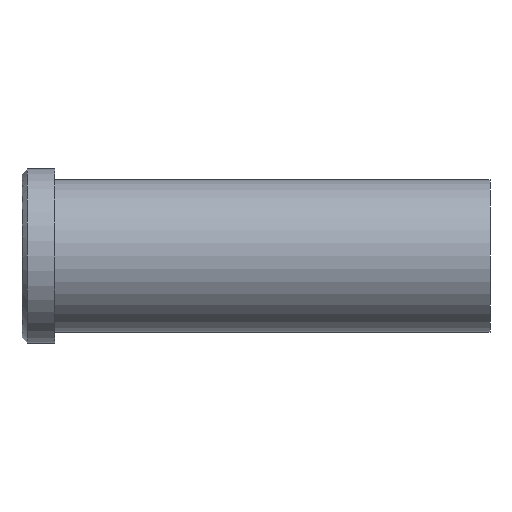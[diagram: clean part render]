
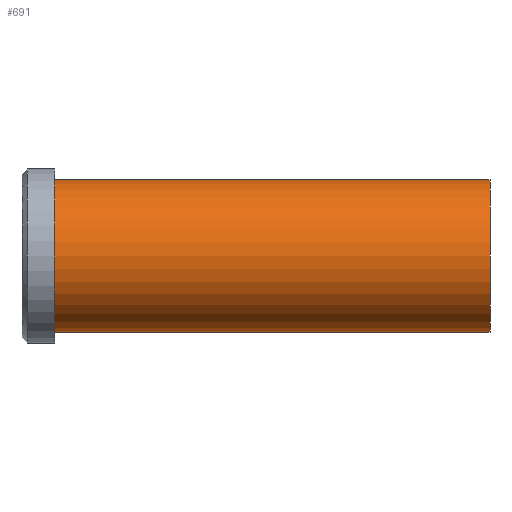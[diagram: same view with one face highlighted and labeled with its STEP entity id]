
A CAD part, front view. The second image highlights one B-rep face of the part: STEP entity #691.
In plain terms, the highlighted cylindrical face has radius 14 mm (diameter 28 mm), a partial arc.
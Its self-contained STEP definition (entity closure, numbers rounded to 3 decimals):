
#501=CARTESIAN_POINT('Vertex',(0.,0.,-14.)) ;
#506=CARTESIAN_POINT('Axis2P3D Location',(0.,0.,0.)) ;
#510=CARTESIAN_POINT('Vertex',(0.,-14.,0.)) ;
#513=CARTESIAN_POINT('Axis2P3D Location',(0.,0.,0.)) ;
#517=CARTESIAN_POINT('Vertex',(0.,0.,14.)) ;
#631=CARTESIAN_POINT('Line Origine',(80.,0.,14.)) ;
#635=CARTESIAN_POINT('Vertex',(80.,0.,14.)) ;
#649=CARTESIAN_POINT('Vertex',(80.,0.,-14.)) ;
#652=CARTESIAN_POINT('Line Origine',(80.,0.,-14.)) ;
#666=CARTESIAN_POINT('Axis2P3D Location',(80.,0.,0.)) ;
#671=CARTESIAN_POINT('Axis2P3D Location',(80.,0.,0.)) ;
#675=CARTESIAN_POINT('Vertex',(80.,-14.,0.)) ;
#678=CARTESIAN_POINT('Axis2P3D Location',(80.,0.,0.)) ;
#507=DIRECTION('Axis2P3D Direction',(1.,0.,-0.)) ;
#514=DIRECTION('Axis2P3D Direction',(1.,0.,-0.)) ;
#632=DIRECTION('Vector Direction',(-1.,0.,0.)) ;
#653=DIRECTION('Vector Direction',(-1.,0.,0.)) ;
#667=DIRECTION('Axis2P3D Direction',(-1.,-0.,-0.)) ;
#668=DIRECTION('Axis2P3D XDirection',(0.,0.,-1.)) ;
#672=DIRECTION('Axis2P3D Direction',(-1.,-0.,-0.)) ;
#679=DIRECTION('Axis2P3D Direction',(-1.,-0.,-0.)) ;
#508=AXIS2_PLACEMENT_3D('Circle Axis2P3D',#506,#507,$) ;
#515=AXIS2_PLACEMENT_3D('Circle Axis2P3D',#513,#514,$) ;
#669=AXIS2_PLACEMENT_3D('Cylinder Axis2P3D',#666,#667,#668) ;
#673=AXIS2_PLACEMENT_3D('Circle Axis2P3D',#671,#672,$) ;
#680=AXIS2_PLACEMENT_3D('Circle Axis2P3D',#678,#679,$) ;
#684=ORIENTED_EDGE('',*,*,#656,.T.) ;
#685=ORIENTED_EDGE('',*,*,#677,.F.) ;
#686=ORIENTED_EDGE('',*,*,#682,.F.) ;
#687=ORIENTED_EDGE('',*,*,#637,.T.) ;
#688=ORIENTED_EDGE('',*,*,#519,.T.) ;
#689=ORIENTED_EDGE('',*,*,#512,.T.) ;
#633=VECTOR('Line Direction',#632,1.) ;
#654=VECTOR('Line Direction',#653,1.) ;
#691=ADVANCED_FACE('353-20X86',(#690),#670,.T.) ;
#509=CIRCLE('generated circle',#508,14.) ;
#516=CIRCLE('generated circle',#515,14.) ;
#674=CIRCLE('generated circle',#673,14.) ;
#681=CIRCLE('generated circle',#680,14.) ;
#670=CYLINDRICAL_SURFACE('generated cylinder',#669,14.) ;
#512=EDGE_CURVE('',#511,#502,#509,.T.) ;
#519=EDGE_CURVE('',#518,#511,#516,.T.) ;
#637=EDGE_CURVE('',#636,#518,#634,.T.) ;
#656=EDGE_CURVE('',#502,#650,#655,.F.) ;
#677=EDGE_CURVE('',#676,#650,#674,.F.) ;
#682=EDGE_CURVE('',#636,#676,#681,.F.) ;
#683=EDGE_LOOP('',(#684,#685,#686,#687,#688,#689)) ;
#690=FACE_OUTER_BOUND('',#683,.T.) ;
#634=LINE('Line',#631,#633) ;
#655=LINE('Line',#652,#654) ;
#502=VERTEX_POINT('',#501) ;
#511=VERTEX_POINT('',#510) ;
#518=VERTEX_POINT('',#517) ;
#636=VERTEX_POINT('',#635) ;
#650=VERTEX_POINT('',#649) ;
#676=VERTEX_POINT('',#675) ;
